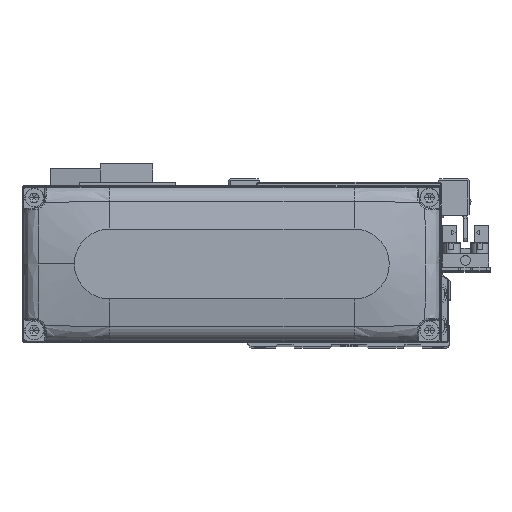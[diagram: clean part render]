
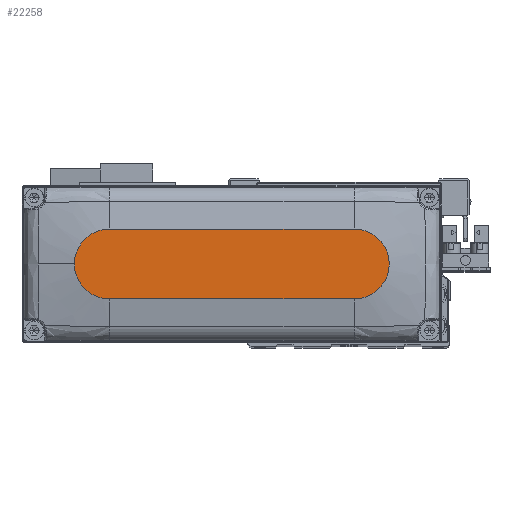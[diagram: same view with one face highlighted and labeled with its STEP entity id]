
A CAD part, top view. The second image highlights one B-rep face of the part: STEP entity #22258.
In plain terms, the highlighted planar face has unit normal (0, 0, 1).
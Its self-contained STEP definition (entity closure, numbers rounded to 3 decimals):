
#866 = EDGE_CURVE ( 'NONE', #33906, #28098, #30843, .T. ) ;
#1821 = CARTESIAN_POINT ( 'NONE',  ( -35., -10., 28. ) ) ;
#2957 = ORIENTED_EDGE ( 'NONE', *, *, #9690, .T. ) ;
#2958 = CARTESIAN_POINT ( 'NONE',  ( -35., -10., 28. ) ) ;
#2996 = DIRECTION ( 'NONE',  ( 0., 0., 1. ) ) ;
#3694 = CIRCLE ( 'NONE', #24662, 10. ) ;
#4160 = DIRECTION ( 'NONE',  ( 0., 0., 1. ) ) ;
#4849 = VERTEX_POINT ( 'NONE', #4947 ) ;
#4947 = CARTESIAN_POINT ( 'NONE',  ( 35., -10., 28. ) ) ;
#5353 = ORIENTED_EDGE ( 'NONE', *, *, #866, .T. ) ;
#7733 = AXIS2_PLACEMENT_3D ( 'NONE', #10730, #22181, #33619 ) ;
#9182 = DIRECTION ( 'NONE',  ( 0., 0., 1. ) ) ;
#9690 = EDGE_CURVE ( 'NONE', #31478, #32603, #27530, .T. ) ;
#10083 = EDGE_CURVE ( 'NONE', #32603, #4849, #28665, .T. ) ;
#10730 = CARTESIAN_POINT ( 'NONE',  ( 0., 0., 28. ) ) ;
#11329 = AXIS2_PLACEMENT_3D ( 'NONE', #34860, #9182, #20627 ) ;
#13033 = LINE ( 'NONE', #24498, #26102 ) ;
#14394 = DIRECTION ( 'NONE',  ( 1., 0., 0. ) ) ;
#14431 = DIRECTION ( 'NONE',  ( 1., 0., 0. ) ) ;
#15584 = DIRECTION ( 'NONE',  ( 1., 0., 0. ) ) ;
#18687 = EDGE_LOOP ( 'NONE', ( #33525, #2957, #19149, #19639, #5353 ) ) ;
#19149 = ORIENTED_EDGE ( 'NONE', *, *, #10083, .T. ) ;
#19166 = VECTOR ( 'NONE', #14394, 1000. ) ;
#19639 = ORIENTED_EDGE ( 'NONE', *, *, #26401, .T. ) ;
#20627 = DIRECTION ( 'NONE',  ( 1., 0., 0. ) ) ;
#21382 = CARTESIAN_POINT ( 'NONE',  ( 45., 0., 28. ) ) ;
#22181 = DIRECTION ( 'NONE',  ( 0., 0., 1. ) ) ;
#22258 = ADVANCED_FACE ( 'NONE', ( #24998 ), #36414, .T. ) ;
#24498 = CARTESIAN_POINT ( 'NONE',  ( -35., 10., 28. ) ) ;
#24662 = AXIS2_PLACEMENT_3D ( 'NONE', #28703, #2996, #14431 ) ;
#24998 = FACE_OUTER_BOUND ( 'NONE', #18687, .T. ) ;
#26102 = VECTOR ( 'NONE', #35919, 1000. ) ;
#26401 = EDGE_CURVE ( 'NONE', #4849, #33906, #3694, .T. ) ;
#27530 = CIRCLE ( 'NONE', #11329, 10. ) ;
#28098 = VERTEX_POINT ( 'NONE', #29764 ) ;
#28180 = EDGE_CURVE ( 'NONE', #28098, #31478, #13033, .T. ) ;
#28665 = LINE ( 'NONE', #2958, #19166 ) ;
#28703 = CARTESIAN_POINT ( 'NONE',  ( 35., 0., 28. ) ) ;
#29764 = CARTESIAN_POINT ( 'NONE',  ( 35., 10., 28. ) ) ;
#29870 = CARTESIAN_POINT ( 'NONE',  ( 35., 0., 28. ) ) ;
#30306 = AXIS2_PLACEMENT_3D ( 'NONE', #29870, #4160, #15584 ) ;
#30843 = CIRCLE ( 'NONE', #30306, 10. ) ;
#31478 = VERTEX_POINT ( 'NONE', #31812 ) ;
#31812 = CARTESIAN_POINT ( 'NONE',  ( -35., 10., 28. ) ) ;
#32603 = VERTEX_POINT ( 'NONE', #1821 ) ;
#33525 = ORIENTED_EDGE ( 'NONE', *, *, #28180, .T. ) ;
#33619 = DIRECTION ( 'NONE',  ( 1., 0., 0. ) ) ;
#33906 = VERTEX_POINT ( 'NONE', #21382 ) ;
#34860 = CARTESIAN_POINT ( 'NONE',  ( -35., 0., 28. ) ) ;
#35919 = DIRECTION ( 'NONE',  ( -1., 0., 0. ) ) ;
#36414 = PLANE ( 'NONE',  #7733 ) ;
